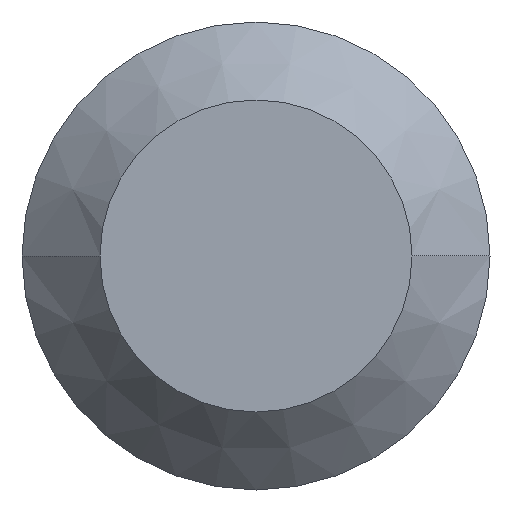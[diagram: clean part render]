
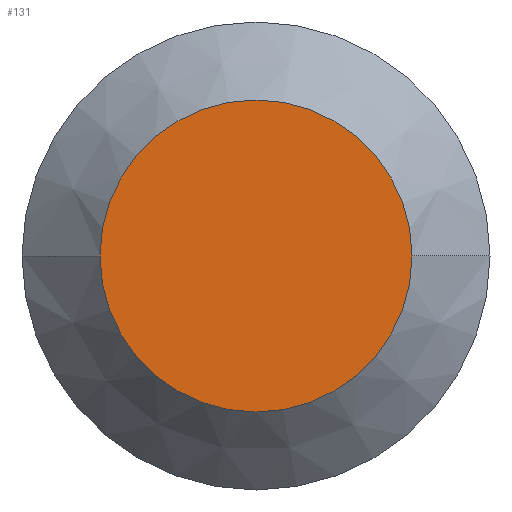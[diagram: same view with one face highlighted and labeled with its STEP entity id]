
A CAD part, front view. The second image highlights one B-rep face of the part: STEP entity #131.
In plain terms, the highlighted planar face has unit normal (0, -1, 0).
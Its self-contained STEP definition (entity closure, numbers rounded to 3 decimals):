
#109=DIRECTION('Axis2P3D Direction',(-0.,1.,0.)) ;
#110=DIRECTION('Axis2P3D XDirection',(1.,0.,0.)) ;
#114=DIRECTION('Axis2P3D Direction',(-0.,1.,0.)) ;
#123=DIRECTION('Axis2P3D Direction',(-0.,1.,0.)) ;
#108=CARTESIAN_POINT('Axis2P3D Location',(964.243,-750.,111.916)) ;
#113=CARTESIAN_POINT('Axis2P3D Location',(964.243,-750.,110.5)) ;
#117=CARTESIAN_POINT('Vertex',(966.243,-750.,110.5)) ;
#119=CARTESIAN_POINT('Vertex',(962.243,-750.,110.5)) ;
#122=CARTESIAN_POINT('Axis2P3D Location',(964.243,-750.,110.5)) ;
#111=AXIS2_PLACEMENT_3D('Plane Axis2P3D',#108,#109,#110) ;
#115=AXIS2_PLACEMENT_3D('Circle Axis2P3D',#113,#114,$) ;
#124=AXIS2_PLACEMENT_3D('Circle Axis2P3D',#122,#123,$) ;
#121=EDGE_CURVE('',#118,#120,#116,.T.) ;
#126=EDGE_CURVE('',#120,#118,#125,.T.) ;
#112=PLANE('Plane',#111) ;
#128=ORIENTED_EDGE('',*,*,#121,.F.) ;
#129=ORIENTED_EDGE('',*,*,#126,.F.) ;
#131=ADVANCED_FACE('\X2\51E04F554F53\X0\.2',(#130),#112,.F.) ;
#116=CIRCLE('generated circle',#115,2.) ;
#125=CIRCLE('generated circle',#124,2.) ;
#118=VERTEX_POINT('',#117) ;
#120=VERTEX_POINT('',#119) ;
#127=EDGE_LOOP('',(#128,#129)) ;
#130=FACE_OUTER_BOUND('',#127,.T.) ;
